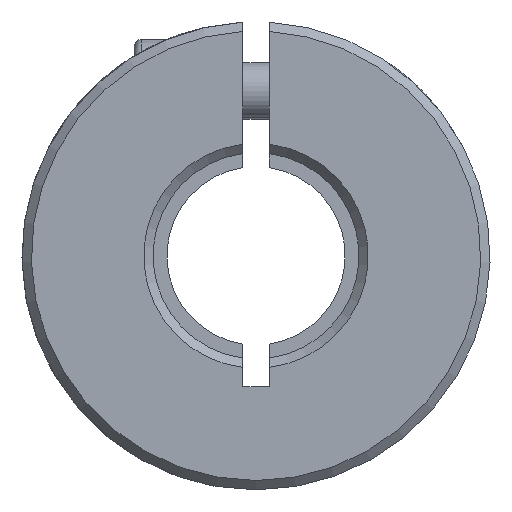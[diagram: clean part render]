
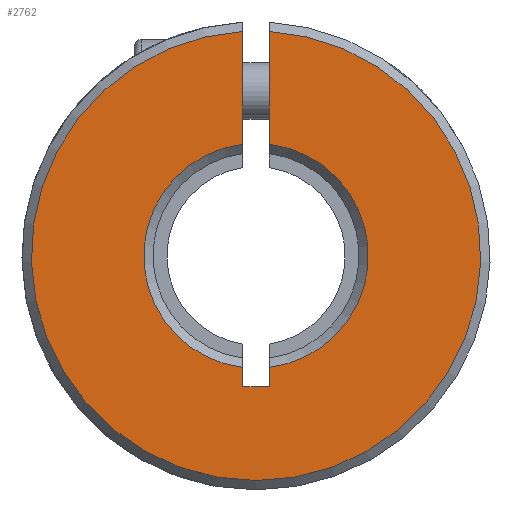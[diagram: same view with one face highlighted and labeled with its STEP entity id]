
A CAD part, front view. The second image highlights one B-rep face of the part: STEP entity #2762.
In plain terms, the highlighted planar face has unit normal (0, -1, 0).
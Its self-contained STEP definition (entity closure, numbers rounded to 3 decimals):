
#111 = VECTOR ( 'NONE', #1215, 1000. ) ;
#171 = CARTESIAN_POINT ( 'NONE',  ( -0.7, 0.25, -7. ) ) ;
#192 = ORIENTED_EDGE ( 'NONE', *, *, #4294, .T. ) ;
#267 = VERTEX_POINT ( 'NONE', #1812 ) ;
#278 = VERTEX_POINT ( 'NONE', #2196 ) ;
#352 = VECTOR ( 'NONE', #489, 1000. ) ;
#384 = EDGE_CURVE ( 'NONE', #4302, #475, #1889, .T. ) ;
#428 = ORIENTED_EDGE ( 'NONE', *, *, #5049, .T. ) ;
#443 = CARTESIAN_POINT ( 'NONE',  ( 0., 0.25, 0. ) ) ;
#475 = VERTEX_POINT ( 'NONE', #4625 ) ;
#489 = DIRECTION ( 'NONE',  ( 0., 0., 1. ) ) ;
#490 = CARTESIAN_POINT ( 'NONE',  ( 0., 0.25, 0. ) ) ;
#601 = EDGE_CURVE ( 'NONE', #475, #267, #1417, .T. ) ;
#636 = CARTESIAN_POINT ( 'NONE',  ( -0.7, 0.25, -5.959 ) ) ;
#741 = EDGE_CURVE ( 'NONE', #2972, #278, #4363, .T. ) ;
#1006 = CARTESIAN_POINT ( 'NONE',  ( 0.7, 0.25, -7. ) ) ;
#1152 = VECTOR ( 'NONE', #1788, 1000. ) ;
#1215 = DIRECTION ( 'NONE',  ( 0., 0., -1. ) ) ;
#1259 = ORIENTED_EDGE ( 'NONE', *, *, #4985, .F. ) ;
#1417 = LINE ( 'NONE', #1006, #2209 ) ;
#1545 = VECTOR ( 'NONE', #2624, 1000. ) ;
#1629 = CARTESIAN_POINT ( 'NONE',  ( -0.7, 0.25, -7. ) ) ;
#1788 = DIRECTION ( 'NONE',  ( 0., 0., -1. ) ) ;
#1793 = AXIS2_PLACEMENT_3D ( 'NONE', #490, #3848, #5111 ) ;
#1797 = LINE ( 'NONE', #4807, #1545 ) ;
#1812 = CARTESIAN_POINT ( 'NONE',  ( 0.7, 0.25, -7. ) ) ;
#1889 = LINE ( 'NONE', #1629, #111 ) ;
#2196 = CARTESIAN_POINT ( 'NONE',  ( 0.7, 0.25, 11.98 ) ) ;
#2209 = VECTOR ( 'NONE', #5211, 1000. ) ;
#2290 = AXIS2_PLACEMENT_3D ( 'NONE', #2610, #3844, #4274 ) ;
#2381 = VERTEX_POINT ( 'NONE', #2922 ) ;
#2463 = AXIS2_PLACEMENT_3D ( 'NONE', #2990, #5058, #4268 ) ;
#2509 = DIRECTION ( 'NONE',  ( 0., 0., 1. ) ) ;
#2610 = CARTESIAN_POINT ( 'NONE',  ( 0., 0.25, 0. ) ) ;
#2624 = DIRECTION ( 'NONE',  ( 0., 0., 1. ) ) ;
#2762 = ADVANCED_FACE ( 'NONE', ( #3812 ), #3839, .F. ) ;
#2893 = CARTESIAN_POINT ( 'NONE',  ( 0.7, 0.25, -5.959 ) ) ;
#2922 = CARTESIAN_POINT ( 'NONE',  ( -0.7, 0.25, 5.959 ) ) ;
#2972 = VERTEX_POINT ( 'NONE', #3952 ) ;
#2990 = CARTESIAN_POINT ( 'NONE',  ( 12.5, 0.25, -50. ) ) ;
#3002 = CARTESIAN_POINT ( 'NONE',  ( 0.7, 0.25, -7. ) ) ;
#3340 = EDGE_CURVE ( 'NONE', #2972, #2381, #5192, .T. ) ;
#3354 = EDGE_CURVE ( 'NONE', #267, #4420, #3819, .T. ) ;
#3452 = DIRECTION ( 'NONE',  ( 0., -1., 0. ) ) ;
#3529 = ORIENTED_EDGE ( 'NONE', *, *, #3354, .F. ) ;
#3625 = ORIENTED_EDGE ( 'NONE', *, *, #741, .T. ) ;
#3812 = FACE_OUTER_BOUND ( 'NONE', #4790, .T. ) ;
#3819 = LINE ( 'NONE', #3002, #352 ) ;
#3839 = PLANE ( 'NONE',  #2463 ) ;
#3844 = DIRECTION ( 'NONE',  ( 0., 1., 0. ) ) ;
#3848 = DIRECTION ( 'NONE',  ( 0., 1., 0. ) ) ;
#3952 = CARTESIAN_POINT ( 'NONE',  ( -0.7, 0.25, 11.98 ) ) ;
#4144 = CIRCLE ( 'NONE', #1793, 6. ) ;
#4268 = DIRECTION ( 'NONE',  ( 0., 0., 1. ) ) ;
#4274 = DIRECTION ( 'NONE',  ( 0., 0., 1. ) ) ;
#4294 = EDGE_CURVE ( 'NONE', #4646, #4420, #4144, .T. ) ;
#4302 = VERTEX_POINT ( 'NONE', #636 ) ;
#4304 = CIRCLE ( 'NONE', #2290, 6. ) ;
#4363 = CIRCLE ( 'NONE', #4883, 12. ) ;
#4364 = ORIENTED_EDGE ( 'NONE', *, *, #384, .F. ) ;
#4420 = VERTEX_POINT ( 'NONE', #2893 ) ;
#4625 = CARTESIAN_POINT ( 'NONE',  ( -0.7, 0.25, -7. ) ) ;
#4646 = VERTEX_POINT ( 'NONE', #5248 ) ;
#4790 = EDGE_LOOP ( 'NONE', ( #1259, #192, #3529, #5395, #4364, #428, #5413, #3625 ) ) ;
#4807 = CARTESIAN_POINT ( 'NONE',  ( 0.7, 0.25, -7. ) ) ;
#4883 = AXIS2_PLACEMENT_3D ( 'NONE', #443, #3452, #2509 ) ;
#4985 = EDGE_CURVE ( 'NONE', #4646, #278, #1797, .T. ) ;
#5049 = EDGE_CURVE ( 'NONE', #4302, #2381, #4304, .T. ) ;
#5058 = DIRECTION ( 'NONE',  ( 0., 1., 0. ) ) ;
#5111 = DIRECTION ( 'NONE',  ( 0., 0., 1. ) ) ;
#5192 = LINE ( 'NONE', #171, #1152 ) ;
#5211 = DIRECTION ( 'NONE',  ( 1., 0., 0. ) ) ;
#5248 = CARTESIAN_POINT ( 'NONE',  ( 0.7, 0.25, 5.959 ) ) ;
#5395 = ORIENTED_EDGE ( 'NONE', *, *, #601, .F. ) ;
#5413 = ORIENTED_EDGE ( 'NONE', *, *, #3340, .F. ) ;
